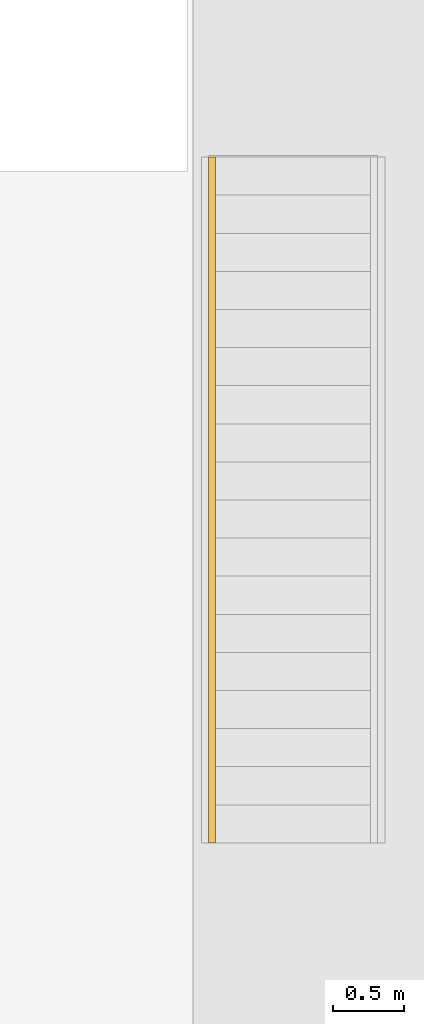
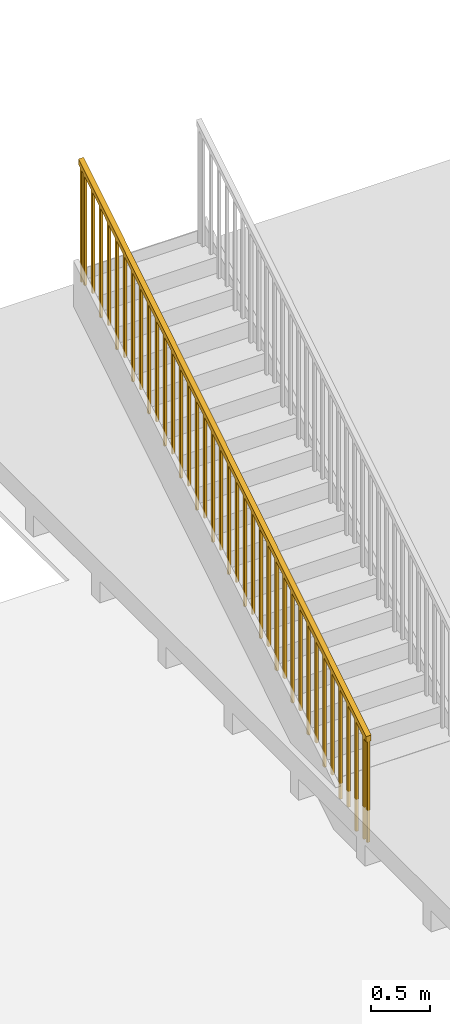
# One storey, part 2 of 4: 1 railing, 1 element without a shape of its own.
"""IFC2X3 building model written with IfcOpenShell, lengths in millimetres."""

from ifc_helpers import new_model, entity, si_unit, converted_unit, derived_unit, direction, frame, origin, place, context, subcontext, project, spatial, polyline, outline, extrude, element, aggregate, save


model = new_model("IFC2X3")

# Units and contexts
model_context = context("Model", 3, precision=0.01, world=origin(), true_north=direction((4.05803320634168e-15, -1.0)))
body_context = subcontext(model_context, "Body", "Model", "MODEL_VIEW")
ifc_project = project(units=[si_unit("LENGTHUNIT", "METRE", prefix="MILLI"), si_unit("AREAUNIT", "SQUARE_METRE"), si_unit("VOLUMEUNIT", "CUBIC_METRE"), converted_unit("PLANEANGLEUNIT", "DEGREE", entity("IfcRatioMeasure", 0.0174532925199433), si_unit("PLANEANGLEUNIT", "RADIAN"), dimensions=[0, 0, 0, 0, 0, 0, 0]), si_unit("MASSUNIT", "GRAM", prefix="KILO"), derived_unit("MASSDENSITYUNIT", [(si_unit("MASSUNIT", "GRAM", prefix="KILO"), 1), (si_unit("LENGTHUNIT", "METRE"), -3)]), si_unit("TIMEUNIT", "SECOND"), si_unit("FREQUENCYUNIT", "HERTZ"), si_unit("THERMODYNAMICTEMPERATUREUNIT", "DEGREE_CELSIUS"), derived_unit("THERMALTRANSMITTANCEUNIT", [(si_unit("MASSUNIT", "GRAM", prefix="KILO"), 1), (si_unit("THERMODYNAMICTEMPERATUREUNIT", "KELVIN"), -1), (si_unit("TIMEUNIT", "SECOND"), -3)]), derived_unit("VOLUMETRICFLOWRATEUNIT", [(si_unit("LENGTHUNIT", "METRE"), 3), (si_unit("TIMEUNIT", "SECOND"), -1)]), si_unit("ELECTRICCURRENTUNIT", "AMPERE"), si_unit("ELECTRICVOLTAGEUNIT", "VOLT"), si_unit("POWERUNIT", "WATT"), si_unit("FORCEUNIT", "NEWTON", prefix="KILO"), si_unit("ILLUMINANCEUNIT", "LUX"), si_unit("LUMINOUSFLUXUNIT", "LUMEN"), si_unit("LUMINOUSINTENSITYUNIT", "CANDELA"), derived_unit("USERDEFINED", [(si_unit("MASSUNIT", "GRAM", prefix="KILO"), -1), (si_unit("LENGTHUNIT", "METRE"), -2), (si_unit("TIMEUNIT", "SECOND"), 3), (si_unit("LUMINOUSFLUXUNIT", "LUMEN"), 1)]), derived_unit("LINEARVELOCITYUNIT", [(si_unit("LENGTHUNIT", "METRE"), 1), (si_unit("TIMEUNIT", "SECOND"), -1)]), si_unit("PRESSUREUNIT", "PASCAL"), derived_unit("USERDEFINED", [(si_unit("LENGTHUNIT", "METRE"), -2), (si_unit("MASSUNIT", "GRAM", prefix="KILO"), 1), (si_unit("TIMEUNIT", "SECOND"), -2)])], contexts=[model_context])

# Site, building, storey
site_placement = place(None, frame((927466.849349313, 583801.882853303, 0.0), z_axis=(0.0, 0.0, 1.0), x_axis=(-1.0, 0.0, 0.0)))
site = spatial("IfcSite", under=ifc_project, at=site_placement, Name="Surface", CompositionType="ELEMENT")
building_placement = place(site_placement, origin())
building = spatial("IfcBuilding", under=site, at=building_placement, CompositionType="ELEMENT")
storey_placement = place(building_placement, frame((0.0, 0.0, 47670.0)))
storey = spatial("IfcBuildingStorey", under=building, at=storey_placement, Name="Ceiling 3500", CompositionType="ELEMENT", Elevation=47670.0)

# Stair, railing
stair_placement = place(storey_placement, origin())
stair = element("IfcStair", 1, at=stair_placement, inside=storey, Name="Assembled Stair:Stair", ObjectType="Assembled Stair:170mm max riser 270mm going", ShapeType="NOTDEFINED")
railing_placement = place(stair_placement, origin())
railing = element("IfcRailing", 2, at=railing_placement, Name="Railing:1100mm", ObjectType="Railing:1100mm", PredefinedType="NOTDEFINED", context=body_context, shape_type="SweptSolid", body=[
    extrude(outline(polyline([(-583.392487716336, -12.4999999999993), (575.63785808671, -12.4999999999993), (591.14711734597, 12.5000000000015), (-583.392487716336, 12.5000000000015), (-583.392487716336, -12.4999999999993)])), frame((-117288.49177989, 15174.9703267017, 3598.39248771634), z_axis=(1.0, 0.0, 0.0), x_axis=(0.0, 0.0, 1.0)), (0.0, 0.0, 1.0), 25.0000000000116),
    extrude(outline(polyline([(-541.517487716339, -12.4999999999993), (533.762858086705, -12.4999999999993), (549.272117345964, 12.5000000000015), (-541.517487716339, 12.5000000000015), (-541.517487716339, -12.4999999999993)])), frame((-117288.49177989, 15309.9703267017, 3556.51748771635), z_axis=(1.0, 0.0, 0.0), x_axis=(0.0, 0.0, 1.0)), (0.0, 0.0, 1.0), 25.0000000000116),
    extrude(outline(polyline([(-583.392487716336, -12.5000000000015), (575.63785808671, -12.5000000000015), (591.14711734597, 12.4999999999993), (-583.392487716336, 12.4999999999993), (-583.392487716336, -12.5000000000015)])), frame((-117288.49177989, 15444.9703267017, 3430.89248771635), z_axis=(1.0, 0.0, 0.0), x_axis=(0.0, 0.0, 1.0)), (0.0, 0.0, 1.0), 25.0000000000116),
    extrude(outline(polyline([(-541.51748771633, -12.4999999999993), (533.762858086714, -12.4999999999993), (549.272117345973, 12.5000000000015), (-541.51748771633, 12.5000000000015), (-541.51748771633, -12.4999999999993)])), frame((-117288.49177989, 15579.9703267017, 3389.01748771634), z_axis=(1.0, 0.0, 0.0), x_axis=(0.0, 0.0, 1.0)), (0.0, 0.0, 1.0), 25.0000000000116),
    extrude(outline(polyline([(-583.392487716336, -12.5000000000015), (575.63785808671, -12.5000000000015), (591.14711734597, 12.4999999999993), (-583.392487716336, 12.4999999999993), (-583.392487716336, -12.5000000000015)])), frame((-117288.49177989, 15714.9703267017, 3263.39248771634), z_axis=(1.0, 0.0, 0.0), x_axis=(0.0, 0.0, 1.0)), (0.0, 0.0, 1.0), 25.0000000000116),
    extrude(outline(polyline([(-541.517487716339, -12.4999999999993), (533.762858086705, -12.4999999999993), (549.272117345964, 12.5000000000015), (-541.517487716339, 12.5000000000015), (-541.517487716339, -12.4999999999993)])), frame((-117288.49177989, 15849.9703267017, 3221.51748771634), z_axis=(1.0, 0.0, 0.0), x_axis=(0.0, 0.0, 1.0)), (0.0, 0.0, 1.0), 25.0000000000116),
    extrude(outline(polyline([(-583.392487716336, -12.5000000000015), (575.63785808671, -12.5000000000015), (591.14711734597, 12.4999999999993), (-583.392487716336, 12.4999999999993), (-583.392487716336, -12.5000000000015)])), frame((-117288.49177989, 15984.9703267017, 3095.89248771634), z_axis=(1.0, 0.0, 0.0), x_axis=(0.0, 0.0, 1.0)), (0.0, 0.0, 1.0), 25.0000000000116),
    extrude(outline(polyline([(-541.517487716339, -12.4999999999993), (533.762858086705, -12.4999999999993), (549.272117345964, 12.5000000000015), (-541.517487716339, 12.5000000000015), (-541.517487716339, -12.4999999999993)])), frame((-117288.49177989, 16119.9703267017, 3054.01748771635), z_axis=(1.0, 0.0, 0.0), x_axis=(0.0, 0.0, 1.0)), (0.0, 0.0, 1.0), 25.0000000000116),
    extrude(outline(polyline([(-583.392487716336, -12.5000000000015), (575.63785808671, -12.5000000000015), (591.14711734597, 12.4999999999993), (-583.392487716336, 12.4999999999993), (-583.392487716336, -12.5000000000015)])), frame((-117288.49177989, 16254.9703267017, 2928.39248771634), z_axis=(1.0, 0.0, 0.0), x_axis=(0.0, 0.0, 1.0)), (0.0, 0.0, 1.0), 25.0000000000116),
    extrude(outline(polyline([(-541.517487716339, -12.4999999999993), (533.762858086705, -12.4999999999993), (549.272117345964, 12.5000000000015), (-541.517487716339, 12.5000000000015), (-541.517487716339, -12.4999999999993)])), frame((-117288.49177989, 16389.9703267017, 2886.51748771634), z_axis=(1.0, 0.0, 0.0), x_axis=(0.0, 0.0, 1.0)), (0.0, 0.0, 1.0), 25.0000000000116),
    extrude(outline(polyline([(-583.392487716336, -12.4999999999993), (575.63785808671, -12.4999999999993), (591.14711734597, 12.5000000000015), (-583.392487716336, 12.5000000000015), (-583.392487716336, -12.4999999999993)])), frame((-117288.49177989, 16524.9703267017, 2760.89248771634), z_axis=(1.0, 0.0, 0.0), x_axis=(0.0, 0.0, 1.0)), (0.0, 0.0, 1.0), 25.0000000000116),
    extrude(outline(polyline([(-541.517487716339, -12.5000000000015), (533.762858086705, -12.5000000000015), (549.272117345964, 12.4999999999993), (-541.517487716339, 12.4999999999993), (-541.517487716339, -12.5000000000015)])), frame((-117288.49177989, 16659.9703267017, 2719.01748771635), z_axis=(1.0, 0.0, 0.0), x_axis=(0.0, 0.0, 1.0)), (0.0, 0.0, 1.0), 25.0000000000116),
    extrude(outline(polyline([(-583.392487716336, -12.4999999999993), (575.63785808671, -12.4999999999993), (591.14711734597, 12.5000000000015), (-583.392487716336, 12.5000000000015), (-583.392487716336, -12.4999999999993)])), frame((-117288.49177989, 16794.9703267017, 2593.39248771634), z_axis=(1.0, 0.0, 0.0), x_axis=(0.0, 0.0, 1.0)), (0.0, 0.0, 1.0), 25.0000000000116),
    extrude(outline(polyline([(-541.51748771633, -12.4999999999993), (533.762858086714, -12.4999999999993), (549.272117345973, 12.5000000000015), (-541.51748771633, 12.5000000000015), (-541.51748771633, -12.4999999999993)])), frame((-117288.49177989, 16929.9703267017, 2551.51748771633), z_axis=(1.0, 0.0, 0.0), x_axis=(0.0, 0.0, 1.0)), (0.0, 0.0, 1.0), 25.0000000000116),
    extrude(outline(polyline([(-583.392487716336, -12.4999999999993), (575.63785808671, -12.4999999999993), (591.14711734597, 12.5000000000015), (-583.392487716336, 12.5000000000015), (-583.392487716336, -12.4999999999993)])), frame((-117288.49177989, 17064.9703267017, 2425.89248771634), z_axis=(1.0, 0.0, 0.0), x_axis=(0.0, 0.0, 1.0)), (0.0, 0.0, 1.0), 25.0000000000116),
    extrude(outline(polyline([(-541.517487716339, -12.5000000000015), (533.762858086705, -12.5000000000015), (549.272117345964, 12.4999999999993), (-541.517487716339, 12.4999999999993), (-541.517487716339, -12.5000000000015)])), frame((-117288.49177989, 17199.9703267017, 2384.01748771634), z_axis=(1.0, 0.0, 0.0), x_axis=(0.0, 0.0, 1.0)), (0.0, 0.0, 1.0), 25.0000000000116),
    extrude(outline(polyline([(-583.392487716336, -12.4999999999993), (575.63785808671, -12.4999999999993), (591.14711734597, 12.5000000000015), (-583.392487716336, 12.5000000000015), (-583.392487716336, -12.4999999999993)])), frame((-117288.49177989, 17334.9703267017, 2258.39248771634), z_axis=(1.0, 0.0, 0.0), x_axis=(0.0, 0.0, 1.0)), (0.0, 0.0, 1.0), 25.0000000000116),
    extrude(outline(polyline([(-541.517487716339, -12.5000000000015), (533.762858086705, -12.5000000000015), (549.272117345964, 12.4999999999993), (-541.517487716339, 12.4999999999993), (-541.517487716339, -12.5000000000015)])), frame((-117288.49177989, 17469.9703267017, 2216.51748771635), z_axis=(1.0, 0.0, 0.0), x_axis=(0.0, 0.0, 1.0)), (0.0, 0.0, 1.0), 25.0000000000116),
    extrude(outline(polyline([(-583.392487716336, -12.4999999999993), (575.63785808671, -12.4999999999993), (591.14711734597, 12.5000000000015), (-583.392487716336, 12.5000000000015), (-583.392487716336, -12.4999999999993)])), frame((-117288.49177989, 17604.9703267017, 2090.89248771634), z_axis=(1.0, 0.0, 0.0), x_axis=(0.0, 0.0, 1.0)), (0.0, 0.0, 1.0), 25.0000000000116),
    extrude(outline(polyline([(-541.51748771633, -12.5000000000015), (533.762858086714, -12.5000000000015), (549.272117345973, 12.4999999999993), (-541.51748771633, 12.4999999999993), (-541.51748771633, -12.5000000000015)])), frame((-117288.49177989, 17739.9703267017, 2049.01748771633), z_axis=(1.0, 0.0, 0.0), x_axis=(0.0, 0.0, 1.0)), (0.0, 0.0, 1.0), 25.0000000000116),
    extrude(outline(polyline([(-583.392487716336, -12.4999999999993), (575.63785808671, -12.4999999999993), (591.14711734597, 12.5000000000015), (-583.392487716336, 12.5000000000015), (-583.392487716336, -12.4999999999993)])), frame((-117288.49177989, 17874.9703267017, 1923.39248771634), z_axis=(1.0, 0.0, 0.0), x_axis=(0.0, 0.0, 1.0)), (0.0, 0.0, 1.0), 25.0000000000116),
    extrude(outline(polyline([(-541.517487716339, -12.5000000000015), (533.762858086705, -12.5000000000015), (549.272117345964, 12.4999999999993), (-541.517487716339, 12.4999999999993), (-541.517487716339, -12.5000000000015)])), frame((-117288.49177989, 18009.9703267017, 1881.51748771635), z_axis=(1.0, 0.0, 0.0), x_axis=(0.0, 0.0, 1.0)), (0.0, 0.0, 1.0), 25.0000000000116),
    extrude(outline(polyline([(-583.392487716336, -12.4999999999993), (575.63785808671, -12.4999999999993), (591.14711734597, 12.5000000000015), (-583.392487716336, 12.5000000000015), (-583.392487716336, -12.4999999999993)])), frame((-117288.49177989, 18144.9703267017, 1755.89248771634), z_axis=(1.0, 0.0, 0.0), x_axis=(0.0, 0.0, 1.0)), (0.0, 0.0, 1.0), 25.0000000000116),
    extrude(outline(polyline([(-541.517487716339, -12.4999999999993), (533.762858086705, -12.4999999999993), (549.272117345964, 12.5000000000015), (-541.517487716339, 12.5000000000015), (-541.517487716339, -12.4999999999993)])), frame((-117288.49177989, 18279.9703267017, 1714.01748771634), z_axis=(1.0, 0.0, 0.0), x_axis=(0.0, 0.0, 1.0)), (0.0, 0.0, 1.0), 25.0000000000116),
    extrude(outline(polyline([(-583.392487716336, -12.5000000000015), (575.63785808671, -12.5000000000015), (591.14711734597, 12.4999999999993), (-583.392487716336, 12.4999999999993), (-583.392487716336, -12.5000000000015)])), frame((-117288.49177989, 18414.9703267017, 1588.39248771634), z_axis=(1.0, 0.0, 0.0), x_axis=(0.0, 0.0, 1.0)), (0.0, 0.0, 1.0), 25.0000000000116),
    extrude(outline(polyline([(-541.51748771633, -12.4999999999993), (533.762858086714, -12.4999999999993), (549.272117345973, 12.5000000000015), (-541.51748771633, 12.5000000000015), (-541.51748771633, -12.4999999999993)])), frame((-117288.49177989, 18549.9703267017, 1546.51748771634), z_axis=(1.0, 0.0, 0.0), x_axis=(0.0, 0.0, 1.0)), (0.0, 0.0, 1.0), 25.0000000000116),
    extrude(outline(polyline([(-583.392487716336, -12.5000000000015), (575.63785808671, -12.5000000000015), (591.14711734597, 12.4999999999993), (-583.392487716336, 12.4999999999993), (-583.392487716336, -12.5000000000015)])), frame((-117288.49177989, 18684.9703267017, 1420.89248771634), z_axis=(1.0, 0.0, 0.0), x_axis=(0.0, 0.0, 1.0)), (0.0, 0.0, 1.0), 25.0000000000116),
    extrude(outline(polyline([(-541.517487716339, -12.4999999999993), (533.762858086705, -12.4999999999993), (549.272117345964, 12.5000000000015), (-541.517487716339, 12.5000000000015), (-541.517487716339, -12.4999999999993)])), frame((-117288.49177989, 18819.9703267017, 1379.01748771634), z_axis=(1.0, 0.0, 0.0), x_axis=(0.0, 0.0, 1.0)), (0.0, 0.0, 1.0), 25.0000000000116),
    extrude(outline(polyline([(-583.392487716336, -12.5000000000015), (575.63785808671, -12.5000000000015), (591.14711734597, 12.4999999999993), (-583.392487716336, 12.4999999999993), (-583.392487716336, -12.5000000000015)])), frame((-117288.49177989, 18954.9703267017, 1253.39248771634), z_axis=(1.0, 0.0, 0.0), x_axis=(0.0, 0.0, 1.0)), (0.0, 0.0, 1.0), 25.0000000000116),
    extrude(outline(polyline([(-541.517487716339, -12.4999999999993), (533.762858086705, -12.4999999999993), (549.272117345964, 12.5000000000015), (-541.517487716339, 12.5000000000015), (-541.517487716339, -12.4999999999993)])), frame((-117288.49177989, 19089.9703267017, 1211.51748771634), z_axis=(1.0, 0.0, 0.0), x_axis=(0.0, 0.0, 1.0)), (0.0, 0.0, 1.0), 25.0000000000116),
    extrude(outline(polyline([(-583.392487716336, -12.5000000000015), (575.63785808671, -12.5000000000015), (591.14711734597, 12.4999999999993), (-583.392487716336, 12.4999999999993), (-583.392487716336, -12.5000000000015)])), frame((-117288.49177989, 19224.9703267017, 1085.89248771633), z_axis=(1.0, 0.0, 0.0), x_axis=(0.0, 0.0, 1.0)), (0.0, 0.0, 1.0), 25.0000000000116),
    extrude(outline(polyline([(-541.517487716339, -12.4999999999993), (533.762858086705, -12.4999999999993), (549.272117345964, 12.5000000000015), (-541.517487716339, 12.5000000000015), (-541.517487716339, -12.4999999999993)])), frame((-117288.49177989, 19359.9703267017, 1044.01748771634), z_axis=(1.0, 0.0, 0.0), x_axis=(0.0, 0.0, 1.0)), (0.0, 0.0, 1.0), 25.0000000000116),
    extrude(outline(polyline([(-583.392487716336, -12.5000000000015), (575.63785808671, -12.5000000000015), (591.14711734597, 12.4999999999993), (-583.392487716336, 12.4999999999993), (-583.392487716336, -12.5000000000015)])), frame((-117288.49177989, 19494.9703267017, 918.392487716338), z_axis=(1.0, 0.0, 0.0), x_axis=(0.0, 0.0, 1.0)), (0.0, 0.0, 1.0), 25.0000000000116),
    extrude(outline(polyline([(-541.517487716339, -12.5000000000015), (533.762858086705, -12.5000000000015), (549.272117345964, 12.4999999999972), (-541.517487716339, 12.4999999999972), (-541.517487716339, -12.5000000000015)])), frame((-117288.49177989, 19629.9703267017, 876.517487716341), z_axis=(1.0, 0.0, 0.0), x_axis=(0.0, 0.0, 1.0)), (0.0, 0.0, 1.0), 25.0000000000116),
    extrude(outline(polyline([(-583.392487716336, -12.5000000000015), (575.63785808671, -12.5000000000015), (591.14711734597, 12.4999999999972), (-583.392487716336, 12.4999999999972), (-583.392487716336, -12.5000000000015)])), frame((-117288.49177989, 19764.9703267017, 750.892487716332), z_axis=(1.0, 0.0, 0.0), x_axis=(0.0, 0.0, 1.0)), (0.0, 0.0, 1.0), 25.0000000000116),
    extrude(outline(polyline([(-541.51748771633, -12.4999999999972), (533.762858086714, -12.4999999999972), (549.272117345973, 12.5000000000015), (-541.51748771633, 12.5000000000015), (-541.51748771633, -12.4999999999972)])), frame((-117288.49177989, 19899.9703267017, 709.017487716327), z_axis=(1.0, 0.0, 0.0), x_axis=(0.0, 0.0, 1.0)), (0.0, 0.0, 1.0), 25.0000000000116),
    extrude(outline(polyline([(-600.452672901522, -12.4999999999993), (592.698043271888, -12.4999999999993), (608.207302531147, 12.5000000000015), (-600.452672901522, 12.5000000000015), (-600.452672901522, -12.4999999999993)])), frame((-117288.49177989, 15119.9703267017, 3615.45267290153), z_axis=(1.0, 0.0, 0.0), x_axis=(0.0, 0.0, 1.0)), (0.0, 0.0, 1.0), 25.0000000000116),
    extrude(outline(polyline([(-524.457302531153, -12.5000000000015), (516.702672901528, -12.5000000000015), (532.211932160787, 12.4999999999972), (-524.457302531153, 12.4999999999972), (-524.457302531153, -12.5000000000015)])), frame((-117288.49177989, 19954.9703267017, 691.957302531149), z_axis=(1.0, 0.0, 0.0), x_axis=(0.0, 0.0, 1.0)), (0.0, 0.0, 1.0), 25.0000000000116),
    extrude(outline(polyline([(-2844.11593471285, -25.0), (2875.13445323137, -25.0), (2844.11593471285, 25.0), (-2875.13445323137, 25.0), (-2844.11593471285, -25.0)])), frame((-117300.99177989, 17537.4703267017, 2745.57998771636), z_axis=(1.0, 0.0, 0.0), x_axis=(0.0, -0.849761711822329, 0.527166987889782)), (0.0, 0.0, 1.0), 49.9999999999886),
])
aggregate(stair, [railing])

save(model, "model.ifc")
